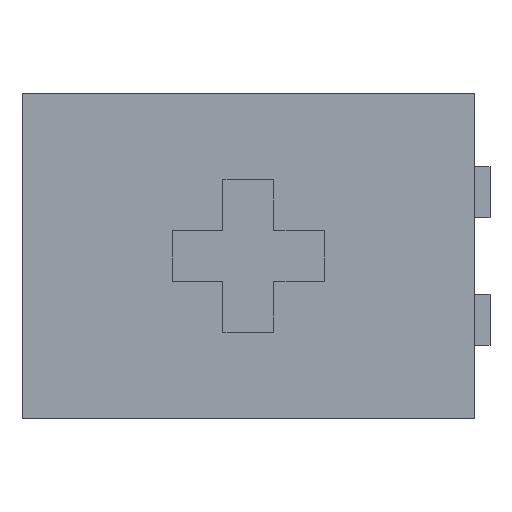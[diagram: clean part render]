
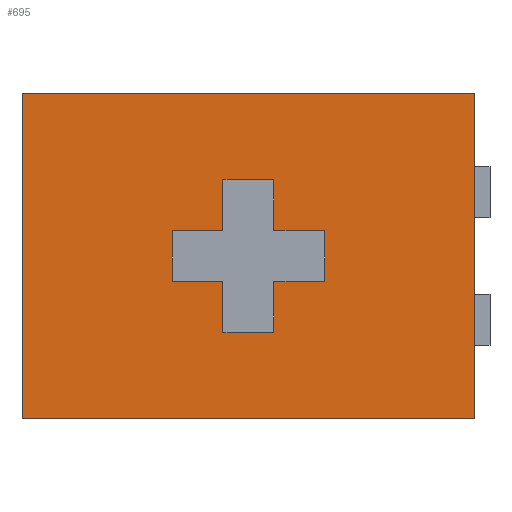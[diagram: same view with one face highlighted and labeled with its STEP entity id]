
A CAD part, top view. The second image highlights one B-rep face of the part: STEP entity #695.
In plain terms, the highlighted planar face has unit normal (0, 0, 1).
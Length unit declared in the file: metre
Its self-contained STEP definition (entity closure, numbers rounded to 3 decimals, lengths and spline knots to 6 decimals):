
#15=FACE_BOUND('',#81,.T.);
#45=FACE_OUTER_BOUND('',#80,.T.);
#80=EDGE_LOOP('',(#587,#588,#589,#590));
#81=EDGE_LOOP('',(#591,#592,#593,#594,#595,#596,#597,#598,#599,#600,#601,
#602));
#90=LINE('',#930,#186);
#92=LINE('',#936,#188);
#96=LINE('',#945,#192);
#99=LINE('',#951,#195);
#102=LINE('',#956,#198);
#106=LINE('',#963,#202);
#113=LINE('',#977,#209);
#116=LINE('',#982,#212);
#118=LINE('',#986,#214);
#119=LINE('',#989,#215);
#121=LINE('',#992,#217);
#122=LINE('',#994,#218);
#158=LINE('',#1068,#254);
#171=LINE('',#1093,#267);
#173=LINE('',#1096,#269);
#174=LINE('',#1098,#270);
#186=VECTOR('',#760,0.01);
#188=VECTOR('',#764,0.01);
#192=VECTOR('',#770,0.01);
#195=VECTOR('',#775,0.01);
#198=VECTOR('',#780,0.01);
#202=VECTOR('',#786,0.01);
#209=VECTOR('',#797,0.01);
#212=VECTOR('',#802,0.01);
#214=VECTOR('',#806,0.01);
#215=VECTOR('',#809,0.01);
#217=VECTOR('',#813,0.01);
#218=VECTOR('',#816,0.01);
#254=VECTOR('',#874,0.01);
#267=VECTOR('',#893,0.01);
#269=VECTOR('',#897,0.01);
#270=VECTOR('',#900,0.01);
#280=VERTEX_POINT('',#924);
#282=VERTEX_POINT('',#928);
#283=VERTEX_POINT('',#932);
#285=VERTEX_POINT('',#935);
#287=VERTEX_POINT('',#941);
#289=VERTEX_POINT('',#944);
#291=VERTEX_POINT('',#950);
#294=VERTEX_POINT('',#960);
#299=VERTEX_POINT('',#976);
#300=VERTEX_POINT('',#980);
#301=VERTEX_POINT('',#984);
#302=VERTEX_POINT('',#988);
#328=VERTEX_POINT('',#1065);
#329=VERTEX_POINT('',#1067);
#337=VERTEX_POINT('',#1090);
#338=VERTEX_POINT('',#1092);
#346=EDGE_CURVE('',#280,#282,#90,.T.);
#348=EDGE_CURVE('',#285,#283,#92,.T.);
#352=EDGE_CURVE('',#289,#287,#96,.T.);
#355=EDGE_CURVE('',#291,#285,#99,.T.);
#358=EDGE_CURVE('',#282,#289,#102,.T.);
#362=EDGE_CURVE('',#294,#291,#106,.T.);
#369=EDGE_CURVE('',#299,#294,#113,.T.);
#372=EDGE_CURVE('',#287,#300,#116,.T.);
#374=EDGE_CURVE('',#283,#301,#118,.T.);
#375=EDGE_CURVE('',#301,#302,#119,.T.);
#377=EDGE_CURVE('',#302,#280,#121,.T.);
#378=EDGE_CURVE('',#300,#299,#122,.T.);
#414=EDGE_CURVE('',#329,#328,#158,.T.);
#427=EDGE_CURVE('',#338,#337,#171,.T.);
#429=EDGE_CURVE('',#328,#338,#173,.T.);
#430=EDGE_CURVE('',#337,#329,#174,.T.);
#587=ORIENTED_EDGE('',*,*,#430,.T.);
#588=ORIENTED_EDGE('',*,*,#414,.T.);
#589=ORIENTED_EDGE('',*,*,#429,.T.);
#590=ORIENTED_EDGE('',*,*,#427,.T.);
#591=ORIENTED_EDGE('',*,*,#352,.T.);
#592=ORIENTED_EDGE('',*,*,#372,.T.);
#593=ORIENTED_EDGE('',*,*,#378,.T.);
#594=ORIENTED_EDGE('',*,*,#369,.T.);
#595=ORIENTED_EDGE('',*,*,#362,.T.);
#596=ORIENTED_EDGE('',*,*,#355,.T.);
#597=ORIENTED_EDGE('',*,*,#348,.T.);
#598=ORIENTED_EDGE('',*,*,#374,.T.);
#599=ORIENTED_EDGE('',*,*,#375,.T.);
#600=ORIENTED_EDGE('',*,*,#377,.T.);
#601=ORIENTED_EDGE('',*,*,#346,.T.);
#602=ORIENTED_EDGE('',*,*,#358,.T.);
#660=PLANE('',#747);
#695=ADVANCED_FACE('',(#45,#15),#660,.T.);
#747=AXIS2_PLACEMENT_3D('',#1099,#901,#902);
#760=DIRECTION('',(1.,0.,0.));
#764=DIRECTION('',(1.,0.,0.));
#770=DIRECTION('',(-1.,0.,0.));
#775=DIRECTION('',(0.,1.,0.));
#780=DIRECTION('',(0.,-1.,0.));
#786=DIRECTION('',(-1.,0.,0.));
#797=DIRECTION('',(0.,1.,0.));
#802=DIRECTION('',(0.,-1.,0.));
#806=DIRECTION('',(0.,1.,0.));
#809=DIRECTION('',(1.,0.,0.));
#813=DIRECTION('',(0.,-1.,0.));
#816=DIRECTION('',(-1.,0.,0.));
#874=DIRECTION('',(0.,1.,0.));
#893=DIRECTION('',(0.,-1.,0.));
#897=DIRECTION('',(-1.,0.,0.));
#900=DIRECTION('',(1.,0.,0.));
#901=DIRECTION('center_axis',(0.,0.,1.));
#902=DIRECTION('ref_axis',(1.,0.,0.));
#924=CARTESIAN_POINT('',(0.02,0.02,0.15));
#928=CARTESIAN_POINT('',(0.06,0.02,0.15));
#930=CARTESIAN_POINT('',(0.03,0.02,0.15));
#932=CARTESIAN_POINT('',(-0.02,0.02,0.15));
#935=CARTESIAN_POINT('',(-0.06,0.02,0.15));
#936=CARTESIAN_POINT('',(0.03,0.02,0.15));
#941=CARTESIAN_POINT('',(0.02,-0.02,0.15));
#944=CARTESIAN_POINT('',(0.06,-0.02,0.15));
#945=CARTESIAN_POINT('',(-0.03,-0.02,0.15));
#950=CARTESIAN_POINT('',(-0.06,-0.02,0.15));
#951=CARTESIAN_POINT('',(-0.06,0.01,0.15));
#956=CARTESIAN_POINT('',(0.06,-0.01,0.15));
#960=CARTESIAN_POINT('',(-0.02,-0.02,0.15));
#963=CARTESIAN_POINT('',(-0.03,-0.02,0.15));
#976=CARTESIAN_POINT('',(-0.02,-0.06,0.15));
#977=CARTESIAN_POINT('',(-0.02,0.03,0.15));
#980=CARTESIAN_POINT('',(0.02,-0.06,0.15));
#982=CARTESIAN_POINT('',(0.02,-0.03,0.15));
#984=CARTESIAN_POINT('',(-0.02,0.06,0.15));
#986=CARTESIAN_POINT('',(-0.02,0.03,0.15));
#988=CARTESIAN_POINT('',(0.02,0.06,0.15));
#989=CARTESIAN_POINT('',(0.01,0.06,0.15));
#992=CARTESIAN_POINT('',(0.02,-0.03,0.15));
#994=CARTESIAN_POINT('',(-0.01,-0.06,0.15));
#1065=CARTESIAN_POINT('',(0.178,0.128,0.15));
#1067=CARTESIAN_POINT('',(0.178,-0.128,0.15));
#1068=CARTESIAN_POINT('',(0.178,-0.128,0.15));
#1090=CARTESIAN_POINT('',(-0.178,-0.128,0.15));
#1092=CARTESIAN_POINT('',(-0.178,0.128,0.15));
#1093=CARTESIAN_POINT('',(-0.178,0.128,0.15));
#1096=CARTESIAN_POINT('',(0.178,0.128,0.15));
#1098=CARTESIAN_POINT('',(-0.178,-0.128,0.15));
#1099=CARTESIAN_POINT('Origin',(0.,0.,0.15));
